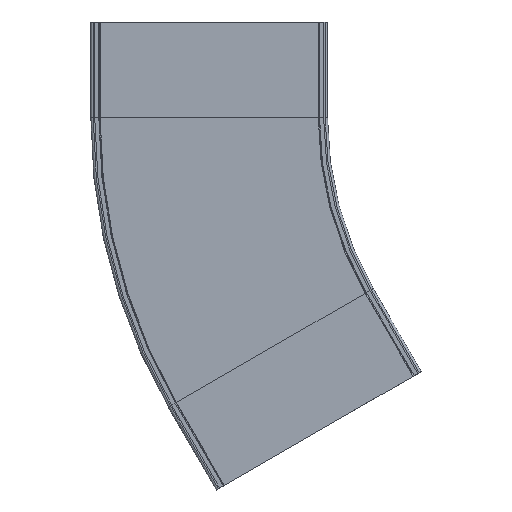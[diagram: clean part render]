
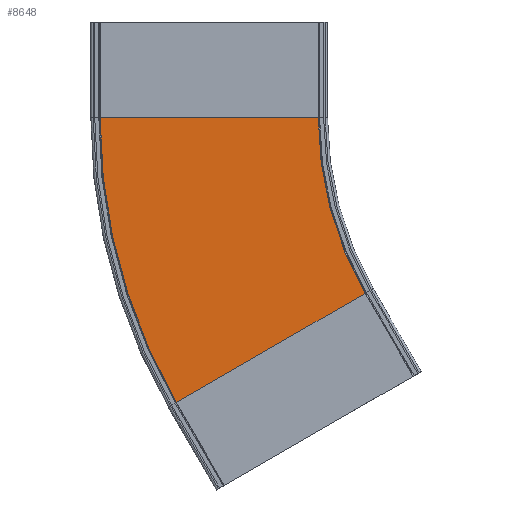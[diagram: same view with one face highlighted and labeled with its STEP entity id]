
A CAD part, front view. The second image highlights one B-rep face of the part: STEP entity #8648.
In plain terms, the highlighted planar face has unit normal (0, -1, 0).
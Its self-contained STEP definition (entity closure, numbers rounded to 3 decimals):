
#773 = DIRECTION ( 'NONE',  ( 0., 0., 1. ) ) ;
#2762 = EDGE_CURVE ( 'NONE', #2946, #13414, #10080, .T. ) ;
#2790 = EDGE_CURVE ( 'NONE', #8759, #10809, #13340, .T. ) ;
#2946 = VERTEX_POINT ( 'NONE', #14847 ) ;
#3246 = EDGE_CURVE ( 'NONE', #2946, #8759, #12034, .T. ) ;
#3446 = PLANE ( 'NONE',  #12948 ) ;
#3778 = VECTOR ( 'NONE', #15731, 1000. ) ;
#6216 = DIRECTION ( 'NONE',  ( 0., 1., 0. ) ) ;
#7596 = DIRECTION ( 'NONE',  ( 0., 0., 1. ) ) ;
#8191 = ORIENTED_EDGE ( 'NONE', *, *, #11687, .T. ) ;
#8648 = ADVANCED_FACE ( 'NONE', ( #15343 ), #3446, .F. ) ;
#8759 = VERTEX_POINT ( 'NONE', #13330 ) ;
#8825 = CARTESIAN_POINT ( 'NONE',  ( 0., -76.7, -200. ) ) ;
#9037 = DIRECTION ( 'NONE',  ( 0., 1., 0. ) ) ;
#10080 = CIRCLE ( 'NONE', #11468, 1187.6 ) ;
#10809 = VERTEX_POINT ( 'NONE', #17468 ) ;
#11468 = AXIS2_PLACEMENT_3D ( 'NONE', #14486, #6216, #15889 ) ;
#11687 = EDGE_CURVE ( 'NONE', #10809, #13414, #14793, .T. ) ;
#12034 = LINE ( 'NONE', #14147, #15279 ) ;
#12240 = ORIENTED_EDGE ( 'NONE', *, *, #3246, .T. ) ;
#12431 = ORIENTED_EDGE ( 'NONE', *, *, #2762, .F. ) ;
#12948 = AXIS2_PLACEMENT_3D ( 'NONE', #13089, #15887, #7596 ) ;
#13089 = CARTESIAN_POINT ( 'NONE',  ( -68.492, -76.7, -793.8 ) ) ;
#13330 = CARTESIAN_POINT ( 'NONE',  ( 325.723, -76.7, -566.2 ) ) ;
#13340 = CIRCLE ( 'NONE', #14242, 732.4 ) ;
#13414 = VERTEX_POINT ( 'NONE', #15706 ) ;
#14087 = DIRECTION ( 'NONE',  ( 0.866, 0., 0.5 ) ) ;
#14147 = CARTESIAN_POINT ( 'NONE',  ( -68.492, -76.7, -793.8 ) ) ;
#14242 = AXIS2_PLACEMENT_3D ( 'NONE', #17351, #9037, #773 ) ;
#14486 = CARTESIAN_POINT ( 'NONE',  ( 960., -76.7, -200. ) ) ;
#14793 = LINE ( 'NONE', #8825, #3778 ) ;
#14847 = CARTESIAN_POINT ( 'NONE',  ( -68.492, -76.7, -793.8 ) ) ;
#15279 = VECTOR ( 'NONE', #14087, 1000. ) ;
#15343 = FACE_OUTER_BOUND ( 'NONE', #17418, .T. ) ;
#15706 = CARTESIAN_POINT ( 'NONE',  ( -227.6, -76.7, -200. ) ) ;
#15731 = DIRECTION ( 'NONE',  ( -1., 0., 0. ) ) ;
#15887 = DIRECTION ( 'NONE',  ( 0., 1., 0. ) ) ;
#15889 = DIRECTION ( 'NONE',  ( 0., 0., 1. ) ) ;
#17351 = CARTESIAN_POINT ( 'NONE',  ( 960., -76.7, -200. ) ) ;
#17418 = EDGE_LOOP ( 'NONE', ( #8191, #12431, #12240, #17508 ) ) ;
#17468 = CARTESIAN_POINT ( 'NONE',  ( 227.6, -76.7, -200. ) ) ;
#17508 = ORIENTED_EDGE ( 'NONE', *, *, #2790, .T. ) ;
